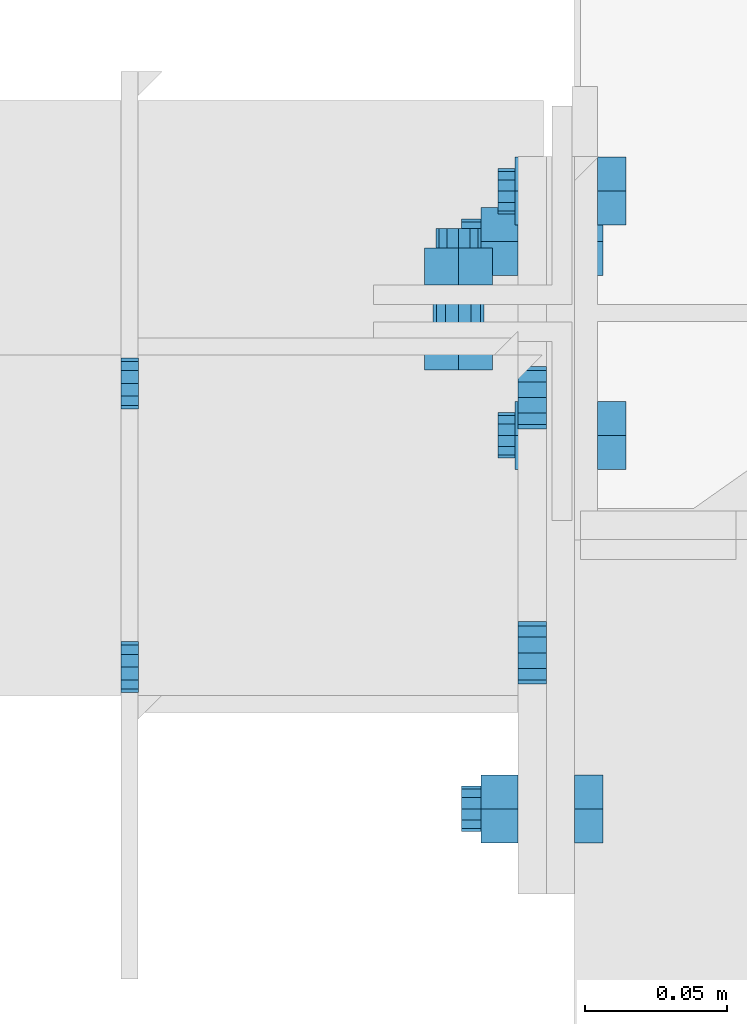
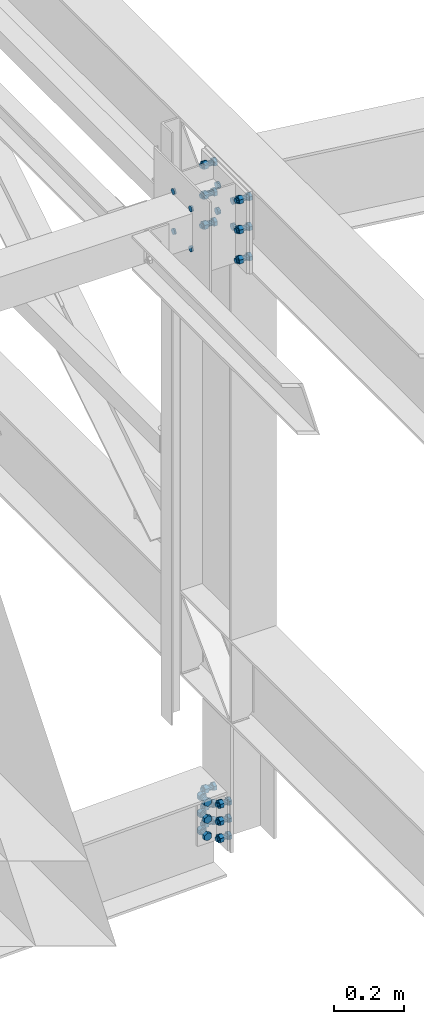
# One storey, part 198 of 3134: 6 mechanical fasteners, 4 elements without a shape of their own.
"""IFC2X3 building model written with IfcOpenShell, lengths in millimetres."""

import ifcopenshell
import ifcopenshell.guid

model = None  # the IFC model being written
_history = None  # IfcOwnerHistory: only IFC2X3 demands one
_inside = {}  # id of a spatial element -> (the spatial element, [elements in it])
_under = {}  # id of a project, library or spatial element -> (it, [spatial elements below it])
_declared = {}  # id of a project -> (the project, [libraries it declares])
_typed = {}  # id of a type object -> (the type object, [elements of that type])
_made_of = {}  # id of a material, layer set ... -> (it, [elements and type objects made of it])


def new_model(schema):
    """Start an empty IFC model of exactly this schema.

    Asked for "IFC4X3", IfcOpenShell would pick the latest addendum, in which some entities
    have other attributes; the version numbers below select the first issue.
    IFC2X3 requires an IfcOwnerHistory on every rooted entity: one is made here for all.
    """
    global model, _history
    if schema == "IFC4X3":
        model = ifcopenshell.file(schema_version=(4, 3, 0, 0))
    else:
        model = ifcopenshell.file(schema=schema)
    _inside.clear()
    _under.clear()
    _declared.clear()
    _typed.clear()
    _made_of.clear()
    _history = None
    if model.schema == "IFC2X3":
        org = make("IfcOrganization", Name="unknown")
        user = make(
            "IfcPersonAndOrganization",
            ThePerson=make("IfcPerson", FamilyName="unknown"),
            TheOrganization=org,
        )
        app = make(
            "IfcApplication",
            ApplicationDeveloper=org,
            Version="unknown",
            ApplicationFullName="unknown",
            ApplicationIdentifier="unknown",
        )
        _history = make(
            "IfcOwnerHistory",
            OwningUser=user,
            OwningApplication=app,
            ChangeAction="ADDED",
            CreationDate=0,
        )
    return model


def make(cls, **values):
    """One entity of the class cls with the attributes given. An attribute that is None is left unset."""
    return model.create_entity(
        cls, **{name: value for name, value in values.items() if value is not None}
    )


def rooted(cls, **values):
    """An entity with a GlobalId (a new one), such as an element, a storey or a relation."""
    return make(cls, GlobalId=ifcopenshell.guid.new(), OwnerHistory=_history, **values)


def si_unit(unit_type, name, prefix=None):
    """IfcSIUnit, for example si_unit("LENGTHUNIT", "METRE", prefix="MILLI")."""
    return make("IfcSIUnit", UnitType=unit_type, Prefix=prefix, Name=name)


def assignment(units):
    """IfcUnitAssignment: the units of a project."""
    return None if units is None else make("IfcUnitAssignment", Units=units)


def point(xyz):
    """IfcCartesianPoint."""
    return None if xyz is None else make("IfcCartesianPoint", Coordinates=xyz)


def direction(xyz):
    """IfcDirection."""
    return None if xyz is None else make("IfcDirection", DirectionRatios=xyz)


def frame(location, z_axis=None, x_axis=None):
    """IfcAxis2Placement3D, a coordinate frame: its origin and axes. An axis left out is left unset."""
    return make(
        "IfcAxis2Placement3D",
        Location=point(location),
        Axis=direction(z_axis),
        RefDirection=direction(x_axis),
    )


def origin_with_axes():
    """The frame at (0, 0, 0) with the z axis (0, 0, 1) and the x axis (1, 0, 0) written out."""
    return frame((0.0, 0.0, 0.0), z_axis=(0.0, 0.0, 1.0), x_axis=(1.0, 0.0, 0.0))


def place(relative_to, where):
    """IfcLocalPlacement: puts the frame where relative to a parent placement (None: the world)."""
    return make(
        "IfcLocalPlacement", PlacementRelTo=relative_to, RelativePlacement=where
    )


def context(
    kind, dimensions, precision=None, world=None, true_north=None, identifier=None
):
    """IfcGeometricRepresentationContext, for example the 3D "Model" context."""
    return make(
        "IfcGeometricRepresentationContext",
        ContextIdentifier=identifier,
        ContextType=kind,
        CoordinateSpaceDimension=dimensions,
        Precision=precision,
        WorldCoordinateSystem=world,
        TrueNorth=true_north,
    )


def subcontext(parent, identifier, kind, view, scale=None):
    """IfcGeometricRepresentationSubContext, for example "Body" below "Model"."""
    return make(
        "IfcGeometricRepresentationSubContext",
        ContextIdentifier=identifier,
        ContextType=kind,
        ParentContext=parent,
        TargetScale=scale,
        TargetView=view,
    )


def project(units=None, contexts=None):
    """IfcProject with its units and contexts."""
    return rooted(
        "IfcProject",
        Name="project",
        RepresentationContexts=contexts,
        UnitsInContext=assignment(units),
    )


def spatial(cls, under=None, at=None, **own):
    """A site, building, storey or space (cls), placed at a placement, below another one or the project."""
    s = rooted(cls, ObjectPlacement=at, **own)
    if under is not None:
        _under.setdefault(under.id(), (under, []))[1].append(s)
    return s


def faces_of(points, faces, orient=None, outer=None):
    """IfcFace entities. A face is a list of loops; a loop is a list of indices into points, from 0.

    orient and outer hold one flag for each loop. By default every Orientation is true, the
    first loop of a face is its IfcFaceOuterBound and the others are IfcFaceBound.
    """
    made = []
    for i, loops in enumerate(faces):
        bounds = []
        for j, loop in enumerate(loops):
            is_outer = j == 0 if outer is None else outer[i][j]
            bounds.append(
                make(
                    "IfcFaceOuterBound" if is_outer else "IfcFaceBound",
                    Bound=make("IfcPolyLoop", Polygon=[points[k] for k in loop]),
                    Orientation=True if orient is None else orient[i][j],
                )
            )
        made.append(make("IfcFace", Bounds=bounds))
    return made


def faceted_brep(points, faces, orient=None, outer=None, voids=None):
    """IfcFacetedBrep: a solid bounded by flat faces; with voids (closed shells), ...WithVoids."""
    shared = [point(p) for p in points]
    hull = make("IfcClosedShell", CfsFaces=faces_of(shared, faces, orient, outer))
    if voids is None:
        return make("IfcFacetedBrep", Outer=hull)
    return make(
        "IfcFacetedBrepWithVoids",
        Outer=hull,
        Voids=[
            make(cls, CfsFaces=faces_of(shared, fs, o, b)) for cls, fs, o, b in voids
        ],
    )


def shape(context_of_items, identifier, shape_type, items):
    """IfcShapeRepresentation: the items that make up one representation, for example the "Body"."""
    return make(
        "IfcShapeRepresentation",
        ContextOfItems=context_of_items,
        RepresentationIdentifier=identifier,
        RepresentationType=shape_type,
        Items=items,
    )


def source(mapping_origin, context_of_items, identifier, shape_type, items):
    """IfcRepresentationMap: a shape defined once, which mapped items show again and again."""
    return make(
        "IfcRepresentationMap",
        MappingOrigin=mapping_origin,
        MappedRepresentation=shape(context_of_items, identifier, shape_type, items),
    )


def transform(
    local_origin,
    x_axis=None,
    y_axis=None,
    z_axis=None,
    scale=None,
    scale2=None,
    scale3=None,
    uniform=True,
):
    """IfcCartesianTransformationOperator3D, or its non-uniform kind. x_axis, y_axis, z_axis: its Axis1, 2, 3."""
    if uniform:
        return make(
            "IfcCartesianTransformationOperator3D",
            Axis1=direction(x_axis),
            Axis2=direction(y_axis),
            LocalOrigin=point(local_origin),
            Scale=scale,
            Axis3=direction(z_axis),
        )
    return make(
        "IfcCartesianTransformationOperator3DnonUniform",
        Axis1=direction(x_axis),
        Axis2=direction(y_axis),
        LocalOrigin=point(local_origin),
        Scale=scale,
        Axis3=direction(z_axis),
        Scale2=scale2,
        Scale3=scale3,
    )


def mapped(mapping_source, mapping_target):
    """IfcMappedItem: shows the shape of a source again, moved by a transform."""
    return make(
        "IfcMappedItem", MappingSource=mapping_source, MappingTarget=mapping_target
    )


def material(Name=None, Category=None):
    """IfcMaterial."""
    return make("IfcMaterial", Name=Name, Category=Category)


def made_of(thing, what):
    """Note that an element or type object is made of a material, layer set ...; save() writes the relation."""
    if what is not None:
        _made_of.setdefault(what.id(), (what, []))[1].append(thing)
    return thing


def type_object(cls, material=None, **own):
    """A type object (cls), such as IfcWallType, which elements share."""
    return made_of(rooted(cls, **own), material)


def element(
    cls,
    number,
    at=None,
    inside=None,
    cuts=None,
    type_object=None,
    material=None,
    context=None,
    identifier="Body",
    shape_type=None,
    held_by="IfcProductDefinitionShape",
    body=None,
    shapes=None,
    **own,
):
    """One element of the class cls, such as IfcWall. Its Tag is "e" and its number.

    at: its placement. inside: the storey or other place that contains it. cuts: it is an
    opening in that element (IfcRelVoidsElement). A single representation is given by context,
    identifier, shape_type and body (its items); several are given by shapes. held_by: the class
    of the entity that holds the representations. save() writes the other relations.
    """
    e = rooted(cls, Tag="e%d" % number, ObjectPlacement=at, **own)
    if body is not None:
        shapes = [shape(context, identifier, shape_type, body)]
    if shapes is not None:
        e.Representation = make(held_by, Representations=shapes)
    if inside is not None:
        _inside.setdefault(inside.id(), (inside, []))[1].append(e)
    if cuts is not None:
        rooted(
            "IfcRelVoidsElement", RelatingBuildingElement=cuts, RelatedOpeningElement=e
        )
    if type_object is not None:
        _typed.setdefault(type_object.id(), (type_object, []))[1].append(e)
    return made_of(e, material)


def aggregate(whole, parts):
    """IfcRelAggregates: a whole, such as a stair, and the parts it consists of."""
    return rooted("IfcRelAggregates", RelatingObject=whole, RelatedObjects=parts)


def save(model, path):
    """Write the relations noted so far, then the file.

    IfcRelAggregates (storeys below a building ...), IfcRelContainedInSpatialStructure (elements
    in a storey), IfcRelDefinesByType, IfcRelAssociatesMaterial and IfcRelDeclares: one each for
    every whole, place, type object, material and project.
    """
    for whole, parts in _under.values():
        aggregate(whole, parts)
    for where, things in _inside.values():
        rooted(
            "IfcRelContainedInSpatialStructure",
            RelatedElements=things,
            RelatingStructure=where,
        )
    for kind, things in _typed.values():
        rooted("IfcRelDefinesByType", RelatedObjects=things, RelatingType=kind)
    for what, things in _made_of.values():
        rooted("IfcRelAssociatesMaterial", RelatedObjects=things, RelatingMaterial=what)
    for by, libraries in _declared.values():
        rooted("IfcRelDeclares", RelatingContext=by, RelatedDefinitions=libraries)
    model.write(path)


model = new_model("IFC2X3")

# Units and contexts
model_context = context("Model", 3, precision=1e-05, world=origin_with_axes())
body_context = subcontext(model_context, "Body", "Model", "MODEL_VIEW")
ifc_project = project(units=[si_unit("LENGTHUNIT", "METRE", prefix="MILLI"), si_unit("AREAUNIT", "SQUARE_METRE"), si_unit("VOLUMEUNIT", "CUBIC_METRE"), si_unit("MASSUNIT", "GRAM", prefix="KILO"), si_unit("TIMEUNIT", "SECOND"), si_unit("PLANEANGLEUNIT", "RADIAN"), si_unit("SOLIDANGLEUNIT", "STERADIAN"), si_unit("THERMODYNAMICTEMPERATUREUNIT", "DEGREE_CELSIUS"), si_unit("LUMINOUSINTENSITYUNIT", "LUMEN")], contexts=[model_context])

# Site, building, storey
site_placement = place(None, origin_with_axes())
site = spatial("IfcSite", under=ifc_project, at=site_placement, CompositionType="ELEMENT")
building_placement = place(site_placement, origin_with_axes())
building = spatial("IfcBuilding", under=site, at=building_placement, Name="Undefined", CompositionType="ELEMENT")
storey_placement = place(building_placement, origin_with_axes())
storey = spatial("IfcBuildingStorey", under=building, at=storey_placement, Name="Undefined", CompositionType="ELEMENT", Elevation=0.0)

# Assembly, mechanical fasteners
assembly_1_placement = place(storey_placement, origin_with_axes())
assembly_1 = element("IfcElementAssembly", 1, at=assembly_1_placement, inside=storey, AssemblyPlace="NOTDEFINED", PredefinedType="RIGID_FRAME")
ifc_material = material(Name="8.8")
mechanical_fastener_type = type_object("IfcMechanicalFastenerType", Name="Bolt assembly")
shared_shape_1 = source(origin_with_axes(), body_context, "Body", "Brep", [
    faceted_brep([(9.0, -3.46568413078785e-07, 0.0), (7.79422863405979, -3.46568413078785e-07, 4.50000000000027), (4.49999999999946, -3.46568413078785e-07, 7.79422863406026), (-9.3270238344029e-13, -3.46568413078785e-07, 9.0), (-4.50000000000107, -3.46568413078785e-07, 7.79422863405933), (-7.79422863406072, -3.46568413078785e-07, 4.49999999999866), (-9.0, -3.46568413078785e-07, -1.86540476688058e-12), (-7.79422863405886, -3.46568413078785e-07, -4.50000000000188), (-4.49999999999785, -3.46568413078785e-07, -7.79422863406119), (2.78811514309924e-12, -3.46568413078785e-07, -9.0), (4.50000000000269, -3.46568413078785e-07, -7.7942286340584), (7.79422863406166, -3.46568413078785e-07, -4.49999999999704), (7.79422863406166, 6.1, -4.49999999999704), (4.50000000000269, 6.1, -7.7942286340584), (2.78811514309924e-12, 6.1, -9.0), (-4.49999999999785, 6.1, -7.79422863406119), (-7.79422863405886, 6.1, -4.50000000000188), (-9.0, 6.1, -1.86540476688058e-12), (-7.79422863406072, 6.1, 4.49999999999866), (-4.50000000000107, 6.1, 7.79422863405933), (-9.3270238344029e-13, 6.1, 9.0), (4.49999999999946, 6.1, 7.79422863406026), (7.79422863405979, 6.1, 4.50000000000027), (9.0, 6.1, 0.0)], [[[0, 1, 2, 3, 4, 5, 6, 7, 8, 9, 10, 11]], [[12, 13, 14, 15, 16, 17, 18, 19, 20, 21, 22, 23]], [[0, 23, 22, 1]], [[1, 22, 21, 2]], [[2, 21, 20, 3]], [[3, 20, 19, 4]], [[4, 19, 18, 5]], [[5, 18, 17, 6]], [[6, 17, 16, 7]], [[7, 16, 15, 8]], [[8, 15, 14, 9]], [[9, 14, 13, 10]], [[10, 13, 12, 11]], [[11, 12, 23, 0]]]),
])
mechanical_fastener_1_placement = place(assembly_1_placement, frame((20615.0, 37556.5019072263, 5760.0), z_axis=(0.0, 0.0, 1.0), x_axis=(0.0, -1.0, 0.0)))
mechanical_fastener_1 = element("IfcMechanicalFastener", 2, at=mechanical_fastener_1_placement, type_object=mechanical_fastener_type, material=ifc_material, Name="Bolt assembly", NominalDiameter=16.0, NominalLength=6.0, context=body_context, shape_type="MappedRepresentation", body=[
    mapped(shared_shape_1, transform((0.0, 0.0, -70.0))),
    mapped(shared_shape_1, transform((100.0, 0.0, -70.0))),
    mapped(shared_shape_1, transform((0.0, 0.0, 70.0))),
    mapped(shared_shape_1, transform((100.0, 0.0, 70.0))),
])
shared_shape_2 = source(origin_with_axes(), body_context, "Body", "Brep", [
    faceted_brep([(11.0, 0.0, 0.0), (9.52627944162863, 0.0, 5.50000000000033), (5.49999999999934, 0.0, 9.5262794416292), (-1.13996957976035e-12, 0.0, 11.0), (-5.50000000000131, 0.0, 9.52627944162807), (-9.52627944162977, 0.0, 5.49999999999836), (-11.0, 0.0, -2.27993915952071e-12), (-9.5262794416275, 0.0, -5.5000000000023), (-5.49999999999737, 0.0, -9.52627944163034), (3.40769628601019e-12, 0.0, -11.0), (5.50000000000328, 0.0, -9.52627944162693), (9.52627944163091, 0.0, -5.49999999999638), (9.52627944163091, 10.1, -5.49999999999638), (5.50000000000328, 10.1, -9.52627944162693), (3.40769628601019e-12, 10.1, -11.0), (-5.49999999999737, 10.1, -9.52627944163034), (-9.5262794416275, 10.1, -5.5000000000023), (-11.0, 10.1, -2.27993915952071e-12), (-9.52627944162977, 10.1, 5.49999999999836), (-5.50000000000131, 10.1, 9.52627944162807), (-1.13996957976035e-12, 10.1, 11.0), (5.49999999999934, 10.1, 9.5262794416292), (9.52627944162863, 10.1, 5.50000000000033), (11.0, 10.1, 0.0)], [[[0, 1, 2, 3, 4, 5, 6, 7, 8, 9, 10, 11]], [[12, 13, 14, 15, 16, 17, 18, 19, 20, 21, 22, 23]], [[0, 23, 22, 1]], [[1, 22, 21, 2]], [[2, 21, 20, 3]], [[3, 20, 19, 4]], [[4, 19, 18, 5]], [[5, 18, 17, 6]], [[6, 17, 16, 7]], [[7, 16, 15, 8]], [[8, 15, 14, 9]], [[9, 14, 13, 10]], [[10, 13, 12, 11]], [[11, 12, 23, 0]]]),
])
mechanical_fastener_2_placement = place(assembly_1_placement, frame((20755.0, 37551.5019072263, 5760.0), z_axis=(0.0, 0.0, 1.0), x_axis=(0.0, -1.0, 0.0)))
mechanical_fastener_2 = element("IfcMechanicalFastener", 3, at=mechanical_fastener_2_placement, type_object=mechanical_fastener_type, material=ifc_material, Name="Bolt assembly", NominalDiameter=20.0, NominalLength=10.0, context=body_context, shape_type="MappedRepresentation", body=[
    mapped(shared_shape_2, transform((0.0, 0.0, -45.0))),
    mapped(shared_shape_2, transform((90.0, 0.0, -45.0))),
    mapped(shared_shape_2, transform((0.0, 0.0, 45.0))),
    mapped(shared_shape_2, transform((90.0, 0.0, 45.0))),
])
aggregate(assembly_1, [mechanical_fastener_2, mechanical_fastener_1])

# Assembly, mechanical fastener
assembly_2_placement = place(storey_placement, origin_with_axes())
assembly_2 = element("IfcElementAssembly", 4, at=assembly_2_placement, inside=storey, Name="300", AssemblyPlace="NOTDEFINED", PredefinedType="RIGID_FRAME")
shared_shape_3 = source(origin_with_axes(), body_context, "Body", "Brep", [
    faceted_brep([(13.856406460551, -30.0, 0.0), (6.92820323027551, -30.0, 12.0), (-6.92820323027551, -30.0, 12.0), (-13.856406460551, -30.0, 1.69692038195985e-15), (-6.92820323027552, -30.0, -12.0), (6.9282032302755, -30.0, -12.0), (6.9282032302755, -20.0, -12.0), (-6.92820323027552, -20.0, -12.0), (-13.856406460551, -20.0, 1.69692038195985e-15), (-6.92820323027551, -20.0, 12.0), (6.92820323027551, -20.0, 12.0), (13.856406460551, -20.0, 0.0), (8.0, -20.0, 0.0), (6.92820323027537, -20.0, 4.00000000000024), (3.99999999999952, -20.0, 6.92820323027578), (-8.29068785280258e-13, -20.0, 8.0), (-4.00000000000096, -20.0, 6.92820323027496), (-6.9282032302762, -20.0, 3.99999999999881), (-8.0, -20.0, -1.65813757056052e-12), (-6.92820323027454, -20.0, -4.00000000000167), (-3.99999999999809, -20.0, -6.92820323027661), (2.47832457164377e-12, -20.0, -8.0), (4.00000000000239, -20.0, -6.92820323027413), (6.92820323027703, -20.0, -3.99999999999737), (6.92820323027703, 20.0, -3.99999999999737), (4.00000000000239, 20.0, -6.92820323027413), (2.47832457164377e-12, 20.0, -8.0), (-3.99999999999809, 20.0, -6.92820323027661), (-6.92820323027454, 20.0, -4.00000000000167), (-8.0, 20.0, -1.65813757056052e-12), (-6.9282032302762, 20.0, 3.99999999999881), (-4.00000000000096, 20.0, 6.92820323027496), (-8.29068785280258e-13, 20.0, 8.0), (3.99999999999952, 20.0, 6.92820323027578), (6.92820323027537, 20.0, 4.00000000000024), (8.0, 20.0, 0.0), (13.856406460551, 0.0, 0.0), (6.92820323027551, 0.0, 12.0), (-6.92820323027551, 0.0, 12.0), (-13.856406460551, 0.0, 1.69692038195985e-15), (-6.92820323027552, 0.0, -12.0), (6.9282032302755, 0.0, -12.0), (6.9282032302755, 12.9999996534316, -12.0), (-6.92820323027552, 12.9999996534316, -12.0), (-13.856406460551, 12.9999996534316, 1.69692038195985e-15), (-6.92820323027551, 12.9999996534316, 12.0), (6.92820323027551, 12.9999996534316, 12.0), (13.856406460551, 12.9999996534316, 0.0)], [[[0, 1, 2, 3, 4, 5]], [[6, 7, 8, 9, 10, 11]], [[0, 11, 10, 1]], [[1, 10, 9, 2]], [[2, 9, 8, 3]], [[3, 8, 7, 4]], [[4, 7, 6, 5]], [[5, 6, 11, 0]], [[12, 13, 14, 15, 16, 17, 18, 19, 20, 21, 22, 23]], [[24, 25, 26, 27, 28, 29, 30, 31, 32, 33, 34, 35]], [[12, 35, 34, 13]], [[13, 34, 33, 14]], [[14, 33, 32, 15]], [[15, 32, 31, 16]], [[16, 31, 30, 17]], [[17, 30, 29, 18]], [[18, 29, 28, 19]], [[19, 28, 27, 20]], [[20, 27, 26, 21]], [[21, 26, 25, 22]], [[22, 25, 24, 23]], [[23, 24, 35, 12]], [[36, 37, 38, 39, 40, 41]], [[42, 43, 44, 45, 46, 47]], [[36, 47, 46, 37]], [[37, 46, 45, 38]], [[38, 45, 44, 39]], [[39, 44, 43, 40]], [[40, 43, 42, 41]], [[41, 42, 47, 36]]]),
    faceted_brep([(9.0, -10.1000003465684, 0.0), (7.79422863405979, -10.1000003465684, 4.50000000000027), (4.49999999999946, -10.1000003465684, 7.79422863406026), (-9.3270238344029e-13, -10.1000003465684, 9.0), (-4.50000000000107, -10.1000003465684, 7.79422863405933), (-7.79422863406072, -10.1000003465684, 4.49999999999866), (-9.0, -10.1000003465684, -1.86540476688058e-12), (-7.79422863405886, -10.1000003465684, -4.50000000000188), (-4.49999999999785, -10.1000003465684, -7.79422863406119), (2.78811514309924e-12, -10.1000003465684, -9.0), (4.50000000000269, -10.1000003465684, -7.7942286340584), (7.79422863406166, -10.1000003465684, -4.49999999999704), (7.79422863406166, -3.46568413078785e-07, -4.49999999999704), (4.50000000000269, -3.46568413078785e-07, -7.7942286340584), (2.78811514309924e-12, -3.46568413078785e-07, -9.0), (-4.49999999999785, -3.46568413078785e-07, -7.79422863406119), (-7.79422863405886, -3.46568413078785e-07, -4.50000000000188), (-9.0, -3.46568413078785e-07, -1.86540476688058e-12), (-7.79422863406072, -3.46568413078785e-07, 4.49999999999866), (-4.50000000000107, -3.46568413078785e-07, 7.79422863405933), (-9.3270238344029e-13, -3.46568413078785e-07, 9.0), (4.49999999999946, -3.46568413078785e-07, 7.79422863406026), (7.79422863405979, -3.46568413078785e-07, 4.50000000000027), (9.0, -3.46568413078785e-07, 0.0), (9.0, -19.9, 0.0), (7.79422863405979, -19.9, 4.50000000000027), (4.49999999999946, -19.9, 7.79422863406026), (-9.3270238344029e-13, -19.9, 9.0), (-4.50000000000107, -19.9, 7.79422863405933), (-7.79422863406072, -19.9, 4.49999999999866), (-9.0, -19.9, -1.86540476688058e-12), (-7.79422863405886, -19.9, -4.50000000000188), (-4.49999999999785, -19.9, -7.79422863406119), (2.78811514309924e-12, -19.9, -9.0), (4.50000000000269, -19.9, -7.7942286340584), (7.79422863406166, -19.9, -4.49999999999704), (7.79422863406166, -9.89999997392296, -4.49999999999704), (4.50000000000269, -9.89999997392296, -7.7942286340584), (2.78811514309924e-12, -9.89999997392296, -9.0), (-4.49999999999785, -9.89999997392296, -7.79422863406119), (-7.79422863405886, -9.89999997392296, -4.50000000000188), (-9.0, -9.89999997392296, -1.86540476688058e-12), (-7.79422863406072, -9.89999997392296, 4.49999999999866), (-4.50000000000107, -9.89999997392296, 7.79422863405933), (-9.3270238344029e-13, -9.89999997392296, 9.0), (4.49999999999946, -9.89999997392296, 7.79422863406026), (7.79422863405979, -9.89999997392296, 4.50000000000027), (9.0, -9.89999997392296, 0.0)], [[[0, 1, 2, 3, 4, 5, 6, 7, 8, 9, 10, 11]], [[12, 13, 14, 15, 16, 17, 18, 19, 20, 21, 22, 23]], [[0, 23, 22, 1]], [[1, 22, 21, 2]], [[2, 21, 20, 3]], [[3, 20, 19, 4]], [[4, 19, 18, 5]], [[5, 18, 17, 6]], [[6, 17, 16, 7]], [[7, 16, 15, 8]], [[8, 15, 14, 9]], [[9, 14, 13, 10]], [[10, 13, 12, 11]], [[11, 12, 23, 0]], [[24, 25, 26, 27, 28, 29, 30, 31, 32, 33, 34, 35]], [[36, 37, 38, 39, 40, 41, 42, 43, 44, 45, 46, 47]], [[24, 47, 46, 25]], [[25, 46, 45, 26]], [[26, 45, 44, 27]], [[27, 44, 43, 28]], [[28, 43, 42, 29]], [[29, 42, 41, 30]], [[30, 41, 40, 31]], [[31, 40, 39, 32]], [[32, 39, 38, 33]], [[33, 38, 37, 34]], [[34, 37, 36, 35]], [[35, 36, 47, 24]]]),
])
mechanical_fastener_3_placement = place(assembly_2_placement, frame((20755.0, 37506.5019072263, 5846.5), z_axis=(0.0, 1.0, 0.0), x_axis=(0.0, 0.0, -1.0)))
mechanical_fastener_3 = element("IfcMechanicalFastener", 5, at=mechanical_fastener_3_placement, type_object=mechanical_fastener_type, material=ifc_material, Name="Bolt assembly", NominalDiameter=16.0, NominalLength=40.0, context=body_context, shape_type="MappedRepresentation", body=[
    mapped(shared_shape_3, transform((0.0, 0.0, -100.0))),
    mapped(shared_shape_3, transform((105.0, 0.0, -100.0))),
    mapped(shared_shape_3, transform((210.0, 0.0, -100.0))),
    mapped(shared_shape_3, transform((0.0, 0.0, 100.0))),
    mapped(shared_shape_3, transform((105.0, 0.0, 100.0))),
    mapped(shared_shape_3, transform((210.0, 0.0, 100.0))),
])
aggregate(assembly_2, [mechanical_fastener_3])

assembly_3_placement = place(storey_placement, origin_with_axes())
assembly_3 = element("IfcElementAssembly", 6, at=assembly_3_placement, inside=storey, AssemblyPlace="NOTDEFINED", PredefinedType="RIGID_FRAME")
shared_shape_4 = source(origin_with_axes(), body_context, "Body", "Brep", [
    faceted_brep([(13.856406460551, -20.0400000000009, 0.0), (6.92820323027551, -20.0400000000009, 12.0), (-6.92820323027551, -20.0400000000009, 12.0), (-13.856406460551, -20.0400000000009, 1.69692038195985e-15), (-6.92820323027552, -20.0400000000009, -12.0), (6.9282032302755, -20.0400000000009, -12.0), (6.9282032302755, -10.0400000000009, -12.0), (-6.92820323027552, -10.0400000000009, -12.0), (-13.856406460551, -10.0400000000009, 1.69692038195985e-15), (-6.92820323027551, -10.0400000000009, 12.0), (6.92820323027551, -10.0400000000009, 12.0), (13.856406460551, -10.0400000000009, 0.0), (8.0, -10.0400000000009, 0.0), (6.92820323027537, -10.0400000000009, 4.00000000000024), (3.99999999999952, -10.0400000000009, 6.92820323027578), (-8.29068785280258e-13, -10.0400000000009, 8.0), (-4.00000000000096, -10.0400000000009, 6.92820323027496), (-6.9282032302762, -10.0400000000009, 3.99999999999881), (-8.0, -10.0400000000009, -1.65813757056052e-12), (-6.92820323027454, -10.0400000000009, -4.00000000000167), (-3.99999999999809, -10.0400000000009, -6.92820323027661), (2.47832457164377e-12, -10.0400000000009, -8.0), (4.00000000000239, -10.0400000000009, -6.92820323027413), (6.92820323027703, -10.0400000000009, -3.99999999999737), (6.92820323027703, 29.9599999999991, -3.99999999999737), (4.00000000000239, 29.9599999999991, -6.92820323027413), (2.47832457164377e-12, 29.9599999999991, -8.0), (-3.99999999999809, 29.9599999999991, -6.92820323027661), (-6.92820323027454, 29.9599999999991, -4.00000000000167), (-8.0, 29.9599999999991, -1.65813757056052e-12), (-6.9282032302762, 29.9599999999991, 3.99999999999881), (-4.00000000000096, 29.9599999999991, 6.92820323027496), (-8.29068785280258e-13, 29.9599999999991, 8.0), (3.99999999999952, 29.9599999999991, 6.92820323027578), (6.92820323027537, 29.9599999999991, 4.00000000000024), (8.0, 29.9599999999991, 0.0), (13.856406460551, 10.0400000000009, 0.0), (6.92820323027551, 10.0400000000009, 12.0), (-6.92820323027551, 10.0400000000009, 12.0), (-13.856406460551, 10.0400000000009, 1.69692038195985e-15), (-6.92820323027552, 10.0400000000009, -12.0), (6.9282032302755, 10.0400000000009, -12.0), (6.9282032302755, 23.0400000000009, -12.0), (-6.92820323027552, 23.0400000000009, -12.0), (-13.856406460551, 23.0400000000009, 1.69692038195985e-15), (-6.92820323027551, 23.0400000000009, 12.0), (6.92820323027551, 23.0400000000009, 12.0), (13.856406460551, 23.0400000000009, 0.0)], [[[0, 1, 2, 3, 4, 5]], [[6, 7, 8, 9, 10, 11]], [[0, 11, 10, 1]], [[1, 10, 9, 2]], [[2, 9, 8, 3]], [[3, 8, 7, 4]], [[4, 7, 6, 5]], [[5, 6, 11, 0]], [[12, 13, 14, 15, 16, 17, 18, 19, 20, 21, 22, 23]], [[24, 25, 26, 27, 28, 29, 30, 31, 32, 33, 34, 35]], [[12, 35, 34, 13]], [[13, 34, 33, 14]], [[14, 33, 32, 15]], [[15, 32, 31, 16]], [[16, 31, 30, 17]], [[17, 30, 29, 18]], [[18, 29, 28, 19]], [[19, 28, 27, 20]], [[20, 27, 26, 21]], [[21, 26, 25, 22]], [[22, 25, 24, 23]], [[23, 24, 35, 12]], [[36, 37, 38, 39, 40, 41]], [[42, 43, 44, 45, 46, 47]], [[36, 47, 46, 37]], [[37, 46, 45, 38]], [[38, 45, 44, 39]], [[39, 44, 43, 40]], [[40, 43, 42, 41]], [[41, 42, 47, 36]]]),
    faceted_brep([(9.0, -3.04999995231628, 0.0), (7.79422863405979, -3.04999995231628, 4.50000000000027), (4.49999999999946, -3.04999995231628, 7.79422863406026), (-9.3270238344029e-13, -3.04999995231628, 9.0), (-4.50000000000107, -3.04999995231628, 7.79422863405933), (-7.79422863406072, -3.04999995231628, 4.49999999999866), (-9.0, -3.04999995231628, -1.86540476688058e-12), (-7.79422863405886, -3.04999995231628, -4.50000000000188), (-4.49999999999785, -3.04999995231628, -7.79422863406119), (2.78811514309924e-12, -3.04999995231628, -9.0), (4.50000000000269, -3.04999995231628, -7.7942286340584), (7.79422863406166, -3.04999995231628, -4.49999999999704), (7.79422863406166, 3.04999995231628, -4.49999999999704), (4.50000000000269, 3.04999995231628, -7.7942286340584), (2.78811514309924e-12, 3.04999995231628, -9.0), (-4.49999999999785, 3.04999995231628, -7.79422863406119), (-7.79422863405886, 3.04999995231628, -4.50000000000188), (-9.0, 3.04999995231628, -1.86540476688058e-12), (-7.79422863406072, 3.04999995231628, 4.49999999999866), (-4.50000000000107, 3.04999995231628, 7.79422863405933), (-9.3270238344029e-13, 3.04999995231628, 9.0), (4.49999999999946, 3.04999995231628, 7.79422863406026), (7.79422863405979, 3.04999995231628, 4.50000000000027), (9.0, 3.04999995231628, 0.0), (9.0, -9.94000000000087, 0.0), (7.79422863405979, -9.94000000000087, 4.50000000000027), (4.49999999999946, -9.94000000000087, 7.79422863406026), (-9.3270238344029e-13, -9.94000000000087, 9.0), (-4.50000000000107, -9.94000000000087, 7.79422863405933), (-7.79422863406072, -9.94000000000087, 4.49999999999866), (-9.0, -9.94000000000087, -1.86540476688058e-12), (-7.79422863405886, -9.94000000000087, -4.50000000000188), (-4.49999999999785, -9.94000000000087, -7.79422863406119), (2.78811514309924e-12, -9.94000000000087, -9.0), (4.50000000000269, -9.94000000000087, -7.7942286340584), (7.79422863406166, -9.94000000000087, -4.49999999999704), (7.79422863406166, -2.94000000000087, -4.49999999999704), (4.50000000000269, -2.94000000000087, -7.7942286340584), (2.78811514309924e-12, -2.94000000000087, -9.0), (-4.49999999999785, -2.94000000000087, -7.79422863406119), (-7.79422863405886, -2.94000000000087, -4.50000000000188), (-9.0, -2.94000000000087, -1.86540476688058e-12), (-7.79422863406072, -2.94000000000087, 4.49999999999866), (-4.50000000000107, -2.94000000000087, 7.79422863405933), (-9.3270238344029e-13, -2.94000000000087, 9.0), (4.49999999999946, -2.94000000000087, 7.79422863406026), (7.79422863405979, -2.94000000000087, 4.50000000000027), (9.0, -2.94000000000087, 0.0), (9.0, 2.94000000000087, 0.0), (7.79422863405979, 2.94000000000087, 4.50000000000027), (4.49999999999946, 2.94000000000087, 7.79422863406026), (-9.3270238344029e-13, 2.94000000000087, 9.0), (-4.50000000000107, 2.94000000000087, 7.79422863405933), (-7.79422863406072, 2.94000000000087, 4.49999999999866), (-9.0, 2.94000000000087, -1.86540476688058e-12), (-7.79422863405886, 2.94000000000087, -4.50000000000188), (-4.49999999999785, 2.94000000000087, -7.79422863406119), (2.78811514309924e-12, 2.94000000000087, -9.0), (4.50000000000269, 2.94000000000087, -7.7942286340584), (7.79422863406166, 2.94000000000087, -4.49999999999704), (7.79422863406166, 10.0400000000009, -4.49999999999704), (4.50000000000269, 10.0400000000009, -7.7942286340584), (2.78811514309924e-12, 10.0400000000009, -9.0), (-4.49999999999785, 10.0400000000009, -7.79422863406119), (-7.79422863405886, 10.0400000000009, -4.50000000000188), (-9.0, 10.0400000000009, -1.86540476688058e-12), (-7.79422863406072, 10.0400000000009, 4.49999999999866), (-4.50000000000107, 10.0400000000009, 7.79422863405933), (-9.3270238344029e-13, 10.0400000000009, 9.0), (4.49999999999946, 10.0400000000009, 7.79422863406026), (7.79422863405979, 10.0400000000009, 4.50000000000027), (9.0, 10.0400000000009, 0.0)], [[[0, 1, 2, 3, 4, 5, 6, 7, 8, 9, 10, 11]], [[12, 13, 14, 15, 16, 17, 18, 19, 20, 21, 22, 23]], [[0, 23, 22, 1]], [[1, 22, 21, 2]], [[2, 21, 20, 3]], [[3, 20, 19, 4]], [[4, 19, 18, 5]], [[5, 18, 17, 6]], [[6, 17, 16, 7]], [[7, 16, 15, 8]], [[8, 15, 14, 9]], [[9, 14, 13, 10]], [[10, 13, 12, 11]], [[11, 12, 23, 0]], [[24, 25, 26, 27, 28, 29, 30, 31, 32, 33, 34, 35]], [[36, 37, 38, 39, 40, 41, 42, 43, 44, 45, 46, 47]], [[24, 47, 46, 25]], [[25, 46, 45, 26]], [[26, 45, 44, 27]], [[27, 44, 43, 28]], [[28, 43, 42, 29]], [[29, 42, 41, 30]], [[30, 41, 40, 31]], [[31, 40, 39, 32]], [[32, 39, 38, 33]], [[33, 38, 37, 34]], [[34, 37, 36, 35]], [[35, 36, 47, 24]], [[48, 49, 50, 51, 52, 53, 54, 55, 56, 57, 58, 59]], [[60, 61, 62, 63, 64, 65, 66, 67, 68, 69, 70, 71]], [[48, 71, 70, 49]], [[49, 70, 69, 50]], [[50, 69, 68, 51]], [[51, 68, 67, 52]], [[52, 67, 66, 53]], [[53, 66, 65, 54]], [[54, 65, 64, 55]], [[55, 64, 63, 56]], [[56, 63, 62, 57]], [[57, 62, 61, 58]], [[58, 61, 60, 59]], [[59, 60, 71, 48]]]),
])
mechanical_fastener_4_placement = place(assembly_3_placement, frame((20734.0000000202, 37581.25, 3648.83272487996), z_axis=(1.0, 0.0, 0.0), x_axis=(0.0, 0.0, -1.0)))
mechanical_fastener_4 = element("IfcMechanicalFastener", 7, at=mechanical_fastener_4_placement, type_object=mechanical_fastener_type, material=ifc_material, Name="Bolt assembly", NominalDiameter=16.0, NominalLength=40.0, context=body_context, shape_type="MappedRepresentation", body=[
    mapped(shared_shape_4, transform((0.0, 0.0, 0.0))),
    mapped(shared_shape_4, transform((59.9999999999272, 0.0, 5.40239852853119e-10))),
    mapped(shared_shape_4, transform((120.0, 0.0, 0.0))),
])

assembly_4_placement = place(storey_placement, origin_with_axes())
assembly_4 = element("IfcElementAssembly", 8, at=assembly_4_placement, inside=storey, AssemblyPlace="NOTDEFINED", PredefinedType="RIGID_FRAME")
shared_shape_5 = source(origin_with_axes(), body_context, "Body", "Brep", [
    faceted_brep([(13.856406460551, -19.0, 0.0), (6.92820323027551, -19.0, 12.0), (-6.92820323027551, -19.0, 12.0), (-13.856406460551, -19.0, 1.69692038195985e-15), (-6.92820323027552, -19.0, -12.0), (6.9282032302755, -19.0, -12.0), (6.9282032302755, -9.0, -12.0), (-6.92820323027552, -9.0, -12.0), (-13.856406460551, -9.0, 1.69692038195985e-15), (-6.92820323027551, -9.0, 12.0), (6.92820323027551, -9.0, 12.0), (13.856406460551, -9.0, 0.0), (8.0, -9.0, 0.0), (6.92820323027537, -9.0, 4.00000000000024), (3.99999999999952, -9.0, 6.92820323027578), (-8.29068785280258e-13, -9.0, 8.0), (-4.00000000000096, -9.0, 6.92820323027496), (-6.9282032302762, -9.0, 3.99999999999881), (-8.0, -9.0, -1.65813757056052e-12), (-6.92820323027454, -9.0, -4.00000000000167), (-3.99999999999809, -9.0, -6.92820323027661), (2.47832457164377e-12, -9.0, -8.0), (4.00000000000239, -9.0, -6.92820323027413), (6.92820323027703, -9.0, -3.99999999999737), (6.92820323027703, 26.0, -3.99999999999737), (4.00000000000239, 26.0, -6.92820323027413), (2.47832457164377e-12, 26.0, -8.0), (-3.99999999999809, 26.0, -6.92820323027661), (-6.92820323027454, 26.0, -4.00000000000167), (-8.0, 26.0, -1.65813757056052e-12), (-6.9282032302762, 26.0, 3.99999999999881), (-4.00000000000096, 26.0, 6.92820323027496), (-8.29068785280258e-13, 26.0, 8.0), (3.99999999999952, 26.0, 6.92820323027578), (6.92820323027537, 26.0, 4.00000000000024), (8.0, 26.0, 0.0), (13.856406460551, 7.0, 0.0), (6.92820323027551, 7.0, 12.0), (-6.92820323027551, 7.0, 12.0), (-13.856406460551, 7.0, 1.69692038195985e-15), (-6.92820323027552, 7.0, -12.0), (6.9282032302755, 7.0, -12.0), (6.9282032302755, 20.0, -12.0), (-6.92820323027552, 20.0, -12.0), (-13.856406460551, 20.0, 1.69692038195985e-15), (-6.92820323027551, 20.0, 12.0), (6.92820323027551, 20.0, 12.0), (13.856406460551, 20.0, 0.0)], [[[0, 1, 2, 3, 4, 5]], [[6, 7, 8, 9, 10, 11]], [[0, 11, 10, 1]], [[1, 10, 9, 2]], [[2, 9, 8, 3]], [[3, 8, 7, 4]], [[4, 7, 6, 5]], [[5, 6, 11, 0]], [[12, 13, 14, 15, 16, 17, 18, 19, 20, 21, 22, 23]], [[24, 25, 26, 27, 28, 29, 30, 31, 32, 33, 34, 35]], [[12, 35, 34, 13]], [[13, 34, 33, 14]], [[14, 33, 32, 15]], [[15, 32, 31, 16]], [[16, 31, 30, 17]], [[17, 30, 29, 18]], [[18, 29, 28, 19]], [[19, 28, 27, 20]], [[20, 27, 26, 21]], [[21, 26, 25, 22]], [[22, 25, 24, 23]], [[23, 24, 35, 12]], [[36, 37, 38, 39, 40, 41]], [[42, 43, 44, 45, 46, 47]], [[36, 47, 46, 37]], [[37, 46, 45, 38]], [[38, 45, 44, 39]], [[39, 44, 43, 40]], [[40, 43, 42, 41]], [[41, 42, 47, 36]]]),
    faceted_brep([(9.0, -8.9, 0.0), (7.79422863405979, -8.9, 4.50000000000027), (4.49999999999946, -8.9, 7.79422863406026), (-9.3270238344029e-13, -8.9, 9.0), (-4.50000000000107, -8.9, 7.79422863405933), (-7.79422863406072, -8.9, 4.49999999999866), (-9.0, -8.9, -1.86540476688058e-12), (-7.79422863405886, -8.9, -4.50000000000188), (-4.49999999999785, -8.9, -7.79422863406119), (2.78811514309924e-12, -8.9, -9.0), (4.50000000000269, -8.9, -7.7942286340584), (7.79422863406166, -8.9, -4.49999999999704), (7.79422863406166, 0.100000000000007, -4.49999999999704), (4.50000000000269, 0.100000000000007, -7.7942286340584), (2.78811514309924e-12, 0.100000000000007, -9.0), (-4.49999999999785, 0.100000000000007, -7.79422863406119), (-7.79422863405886, 0.100000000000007, -4.50000000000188), (-9.0, 0.100000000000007, -1.86540476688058e-12), (-7.79422863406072, 0.100000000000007, 4.49999999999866), (-4.50000000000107, 0.100000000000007, 7.79422863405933), (-9.3270238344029e-13, 0.100000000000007, 9.0), (4.49999999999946, 0.100000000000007, 7.79422863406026), (7.79422863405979, 0.100000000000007, 4.50000000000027), (9.0, 0.100000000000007, 0.0), (9.0, -0.1, 0.0), (7.79422863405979, -0.1, 4.50000000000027), (4.49999999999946, -0.1, 7.79422863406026), (-9.3270238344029e-13, -0.1, 9.0), (-4.50000000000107, -0.1, 7.79422863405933), (-7.79422863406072, -0.1, 4.49999999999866), (-9.0, -0.1, -1.86540476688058e-12), (-7.79422863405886, -0.1, -4.50000000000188), (-4.49999999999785, -0.1, -7.79422863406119), (2.78811514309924e-12, -0.1, -9.0), (4.50000000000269, -0.1, -7.7942286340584), (7.79422863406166, -0.1, -4.49999999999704), (7.79422863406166, 7.0, -4.49999999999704), (4.50000000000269, 7.0, -7.7942286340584), (2.78811514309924e-12, 7.0, -9.0), (-4.49999999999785, 7.0, -7.79422863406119), (-7.79422863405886, 7.0, -4.50000000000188), (-9.0, 7.0, -1.86540476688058e-12), (-7.79422863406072, 7.0, 4.49999999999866), (-4.50000000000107, 7.0, 7.79422863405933), (-9.3270238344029e-13, 7.0, 9.0), (4.49999999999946, 7.0, 7.79422863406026), (7.79422863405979, 7.0, 4.50000000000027), (9.0, 7.0, 0.0)], [[[0, 1, 2, 3, 4, 5, 6, 7, 8, 9, 10, 11]], [[12, 13, 14, 15, 16, 17, 18, 19, 20, 21, 22, 23]], [[0, 23, 22, 1]], [[1, 22, 21, 2]], [[2, 21, 20, 3]], [[3, 20, 19, 4]], [[4, 19, 18, 5]], [[5, 18, 17, 6]], [[6, 17, 16, 7]], [[7, 16, 15, 8]], [[8, 15, 14, 9]], [[9, 14, 13, 10]], [[10, 13, 12, 11]], [[11, 12, 23, 0]], [[24, 25, 26, 27, 28, 29, 30, 31, 32, 33, 34, 35]], [[36, 37, 38, 39, 40, 41, 42, 43, 44, 45, 46, 47]], [[24, 47, 46, 25]], [[25, 46, 45, 26]], [[26, 45, 44, 27]], [[27, 44, 43, 28]], [[28, 43, 42, 29]], [[29, 42, 41, 30]], [[30, 41, 40, 31]], [[31, 40, 39, 32]], [[32, 39, 38, 33]], [[33, 38, 37, 34]], [[34, 37, 36, 35]], [[35, 36, 47, 24]]]),
])
mechanical_fastener_5_placement = place(assembly_4_placement, frame((20774.0000000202, 37624.29, 3648.83272487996), z_axis=(0.0, 1.0, 0.0), x_axis=(0.0, 0.0, -1.0)))
mechanical_fastener_5 = element("IfcMechanicalFastener", 9, at=mechanical_fastener_5_placement, type_object=mechanical_fastener_type, material=ifc_material, Name="Bolt assembly", NominalDiameter=16.0, NominalLength=35.0, context=body_context, shape_type="MappedRepresentation", body=[
    mapped(shared_shape_5, transform((0.0, 0.0, 0.0))),
    mapped(shared_shape_5, transform((59.9999999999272, 0.0, 5.40239852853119e-10))),
    mapped(shared_shape_5, transform((120.0, 0.0, 0.0))),
])
aggregate(assembly_4, [mechanical_fastener_5])

# Mechanical fastener
mechanical_fastener_6_placement = place(assembly_3_placement, frame((20774.0000000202, 37538.21, 3648.83272487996), z_axis=(0.0, 1.0, 0.0), x_axis=(0.0, 0.0, -1.0)))
mechanical_fastener_6 = element("IfcMechanicalFastener", 10, at=mechanical_fastener_6_placement, type_object=mechanical_fastener_type, material=ifc_material, Name="Bolt assembly", NominalDiameter=16.0, NominalLength=35.0, context=body_context, shape_type="MappedRepresentation", body=[
    mapped(shared_shape_5, transform((0.0, 0.0, 0.0))),
    mapped(shared_shape_5, transform((59.9999999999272, 0.0, 5.40239852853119e-10))),
    mapped(shared_shape_5, transform((120.0, 0.0, 0.0))),
])

aggregate(assembly_3, [mechanical_fastener_4, mechanical_fastener_6])

save(model, "model.ifc")
